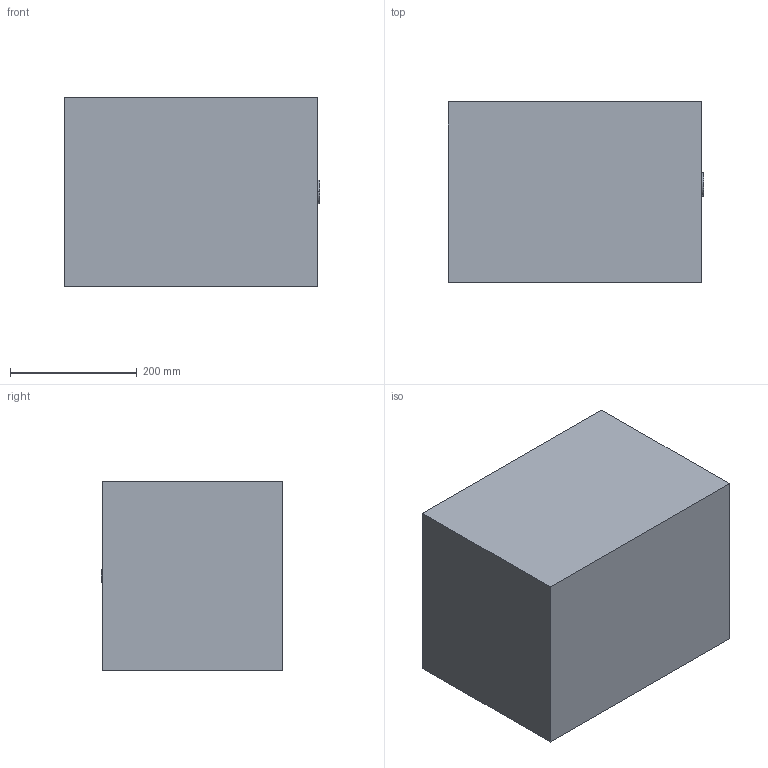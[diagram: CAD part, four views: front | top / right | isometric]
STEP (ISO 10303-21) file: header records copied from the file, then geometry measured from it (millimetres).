
FILE_DESCRIPTION (( 'STEP AP214' ), '1' );
FILE_NAME ('Pollensieb.STEP', '2024-01-24T09:59:42', ( '' ), ( '' ), 'SwSTEP 2.0', 'SolidWorks 2022', '' );
FILE_SCHEMA (( 'AUTOMOTIVE_DESIGN' ));
Length unit declared in the file: millimetre
Products named in the file (9): Lagerung; Pollensieb; Siebtrommel_Deckel; Distanz Motor; Kupplung_neu; Siebtrommel_Boden; Bohrschablone; Deckel; Eurobox
Assembly tree (8 placements, depth 2):
  Pollensieb
    Deckel
    Siebtrommel_Boden
    Siebtrommel_Deckel
    Lagerung
    Eurobox
    Bohrschablone
    Kupplung_neu
    Distanz Motor
Bounding box: 404.5 x 286.2 x 300 mm (x, y, z)
Volume: 10060085.9 mm3; surface area: 1133509.5 mm2
Topology: 9 solids, 9 shells, 241 faces, 644 edges, 428 vertices
Faces by surface type: plane 122, cylinder 117, cone 2
Entity records: 8217 total; most frequent: CARTESIAN_POINT 1386, DIRECTION 1384, ORIENTED_EDGE 1288, EDGE_CURVE 644, AXIS2_PLACEMENT_3D 490, VERTEX_POINT 428, VECTOR 404, LINE 404
